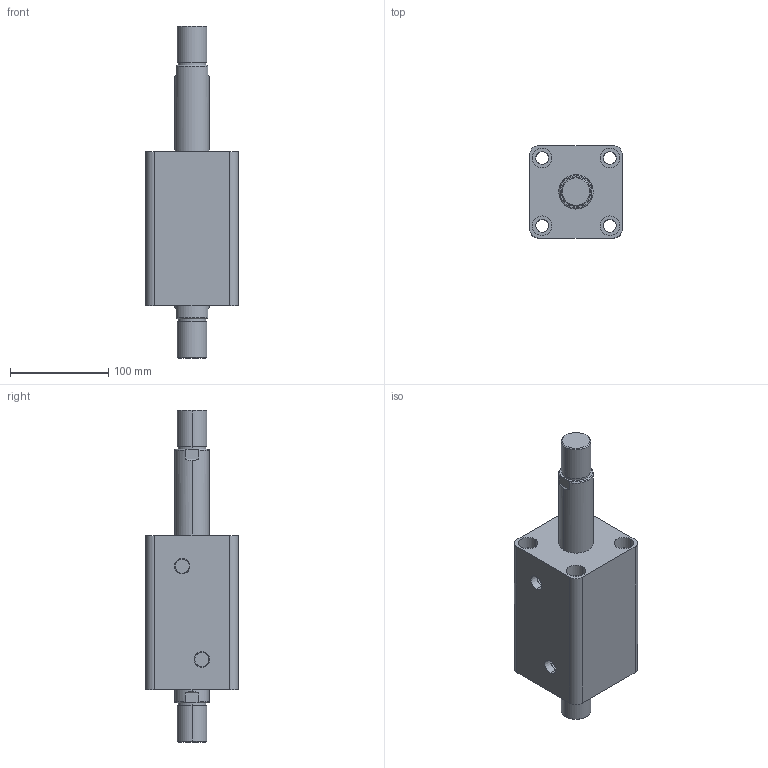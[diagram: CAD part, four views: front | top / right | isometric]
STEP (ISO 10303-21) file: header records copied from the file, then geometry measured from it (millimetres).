
FILE_DESCRIPTION (( 'STEP AP203' ), '1' );
FILE_NAME ('HTB-SW63-75W.STEP', '2019-10-07T10:07:49', ( '微软用户' ), ( '微软中国' ), 'SwSTEP 2.0', 'SolidWorks 2012', '' );
FILE_SCHEMA (( 'CONFIG_CONTROL_DESIGN' ));
Length unit declared in the file: millimetre
Products named in the file (3): HTB-SW63-75W; HTB-SW63-75W活塞杆; HTB-SW63-75掛极
Assembly tree (2 placements, depth 2):
  HTB-SW63-75W
    HTB-SW63-75掛极
    HTB-SW63-75W活塞杆
Bounding box: 94 x 94 x 338 mm (x, y, z)
Volume: 1261184.5 mm3; surface area: 173707.5 mm2
Topology: 2 solids, 2 shells, 108 faces, 240 edges, 156 vertices
Faces by surface type: cylinder 52, plane 36, torus 12, cone 8
Entity records: 3465 total; most frequent: CARTESIAN_POINT 645, DIRECTION 586, ORIENTED_EDGE 480, AXIS2_PLACEMENT_3D 249, EDGE_CURVE 240, VERTEX_POINT 156, EDGE_LOOP 138, CIRCLE 136
